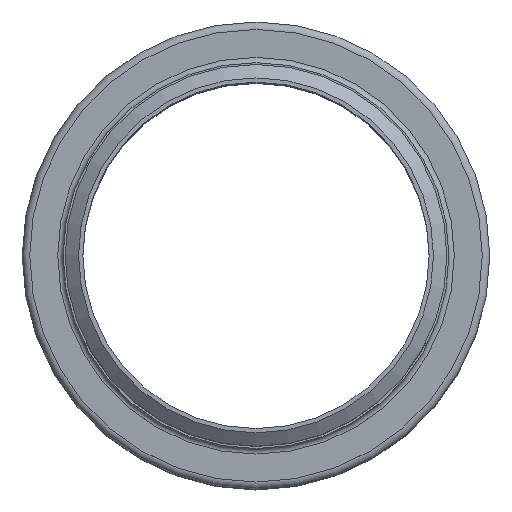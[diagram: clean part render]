
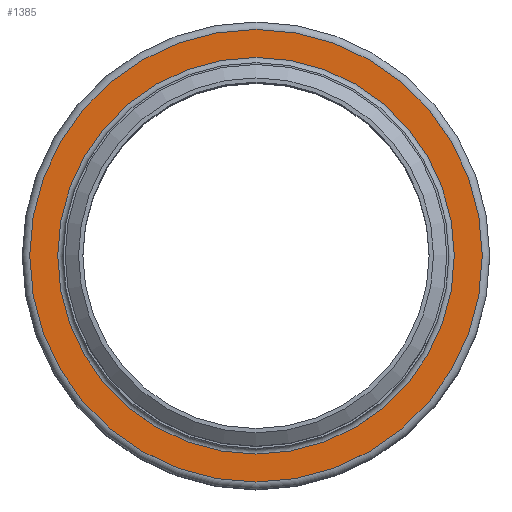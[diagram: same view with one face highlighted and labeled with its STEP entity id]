
A CAD part, top view. The second image highlights one B-rep face of the part: STEP entity #1385.
In plain terms, the highlighted planar face has unit normal (0, 0, 1).
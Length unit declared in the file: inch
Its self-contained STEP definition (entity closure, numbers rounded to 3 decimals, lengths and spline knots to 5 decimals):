
#155=FACE_BOUND('',#416,.T.);
#256=FACE_OUTER_BOUND('',#415,.T.);
#415=EDGE_LOOP('',(#1168));
#416=EDGE_LOOP('',(#1169));
#584=CIRCLE('',#1684,2.89025);
#585=CIRCLE('',#1686,3.29775);
#703=VERTEX_POINT('',#2631);
#704=VERTEX_POINT('',#2635);
#862=EDGE_CURVE('',#703,#703,#584,.T.);
#863=EDGE_CURVE('',#704,#704,#585,.T.);
#1168=ORIENTED_EDGE('',*,*,#863,.F.);
#1169=ORIENTED_EDGE('',*,*,#862,.T.);
#1284=PLANE('',#1685);
#1385=ADVANCED_FACE('',(#256,#155),#1284,.T.);
#1684=AXIS2_PLACEMENT_3D('',#2633,#2197,#2198);
#1685=AXIS2_PLACEMENT_3D('',#2634,#2199,#2200);
#1686=AXIS2_PLACEMENT_3D('',#2636,#2201,#2202);
#2197=DIRECTION('center_axis',(0.,0.,-1.));
#2198=DIRECTION('ref_axis',(1.,0.,0.));
#2199=DIRECTION('center_axis',(0.,0.,1.));
#2200=DIRECTION('ref_axis',(1.,0.,0.));
#2201=DIRECTION('center_axis',(0.,0.,-1.));
#2202=DIRECTION('ref_axis',(1.,0.,0.));
#2631=CARTESIAN_POINT('',(2.89025,0.,-0.07875));
#2633=CARTESIAN_POINT('Origin',(0.,0.,-0.07875));
#2634=CARTESIAN_POINT('Origin',(0.,3.29775,-0.07875));
#2635=CARTESIAN_POINT('',(3.29775,0.,-0.07875));
#2636=CARTESIAN_POINT('Origin',(0.,0.,-0.07875));
